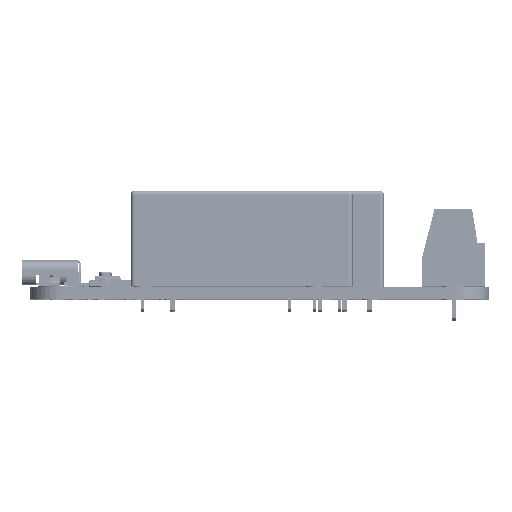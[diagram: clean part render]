
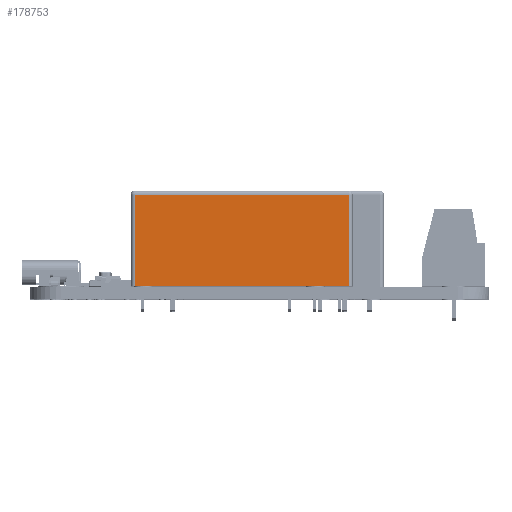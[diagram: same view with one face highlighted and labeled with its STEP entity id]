
A CAD part, top view. The second image highlights one B-rep face of the part: STEP entity #178753.
In plain terms, the highlighted planar face has unit normal (0, 0, 1).
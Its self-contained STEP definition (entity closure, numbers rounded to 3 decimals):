
#23247 = DIRECTION ( 'NONE',  ( 1., 0., 0. ) ) ;
#23259 = DIRECTION ( 'NONE',  ( 0., -1., 0. ) ) ;
#23312 = CARTESIAN_POINT ( 'NONE',  ( -14.25, 0., 5. ) ) ;
#23343 = CARTESIAN_POINT ( 'NONE',  ( -13.75, 12.3, 5. ) ) ;
#24050 = CARTESIAN_POINT ( 'NONE',  ( 13.75, 12.3, 5. ) ) ;
#24056 = DIRECTION ( 'NONE',  ( -1., 0., 0. ) ) ;
#24063 = DIRECTION ( 'NONE',  ( 0., 1., 0. ) ) ;
#24147 = CARTESIAN_POINT ( 'NONE',  ( -14.25, 11.8, 5. ) ) ;
#26605 = LINE ( 'NONE', #23312, #26723 ) ;
#26617 = LINE ( 'NONE', #23343, #26744 ) ;
#26723 = VECTOR ( 'NONE', #23247, 1000. ) ;
#26744 = VECTOR ( 'NONE', #23259, 1000. ) ;
#27023 = LINE ( 'NONE', #24050, #27150 ) ;
#27038 = VECTOR ( 'NONE', #24056, 1000. ) ;
#27150 = VECTOR ( 'NONE', #24063, 1000. ) ;
#27163 = LINE ( 'NONE', #24147, #27038 ) ;
#42222 = ORIENTED_EDGE ( 'NONE', *, *, #69839, .T. ) ;
#42438 = ORIENTED_EDGE ( 'NONE', *, *, #69850, .T. ) ;
#42447 = ORIENTED_EDGE ( 'NONE', *, *, #69649, .T. ) ;
#42619 = ORIENTED_EDGE ( 'NONE', *, *, #69625, .T. ) ;
#69625 = EDGE_CURVE ( 'NONE', #285488, #285577, #26605, .T. ) ;
#69649 = EDGE_CURVE ( 'NONE', #285571, #285488, #26617, .T. ) ;
#69839 = EDGE_CURVE ( 'NONE', #285608, #285571, #27163, .T. ) ;
#69850 = EDGE_CURVE ( 'NONE', #285577, #285608, #27023, .T. ) ;
#76273 = FACE_OUTER_BOUND ( 'NONE', #267107, .T. ) ;
#82367 = CARTESIAN_POINT ( 'NONE',  ( -14.25, 12.3, 5. ) ) ;
#82368 = DIRECTION ( 'NONE',  ( -1., 0., 0. ) ) ;
#82481 = DIRECTION ( 'NONE',  ( 0., 0., -1. ) ) ;
#82497 = PLANE ( 'NONE',  #254356 ) ;
#178753 = ADVANCED_FACE ( 'NONE', ( #76273 ), #82497, .F. ) ;
#254356 = AXIS2_PLACEMENT_3D ( 'NONE', #82367, #82481, #82368 ) ;
#267107 = EDGE_LOOP ( 'NONE', ( #42222, #42447, #42619, #42438 ) ) ;
#272044 = CARTESIAN_POINT ( 'NONE',  ( -13.75, 0., 5. ) ) ;
#272192 = CARTESIAN_POINT ( 'NONE',  ( 13.75, 11.8, 5. ) ) ;
#272201 = CARTESIAN_POINT ( 'NONE',  ( 13.75, 0., 5. ) ) ;
#272204 = CARTESIAN_POINT ( 'NONE',  ( -13.75, 11.8, 5. ) ) ;
#285488 = VERTEX_POINT ( 'NONE', #272044 ) ;
#285571 = VERTEX_POINT ( 'NONE', #272204 ) ;
#285577 = VERTEX_POINT ( 'NONE', #272201 ) ;
#285608 = VERTEX_POINT ( 'NONE', #272192 ) ;
